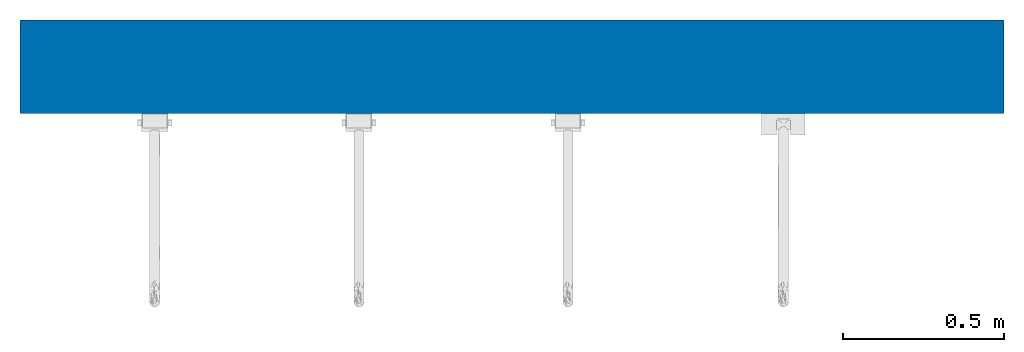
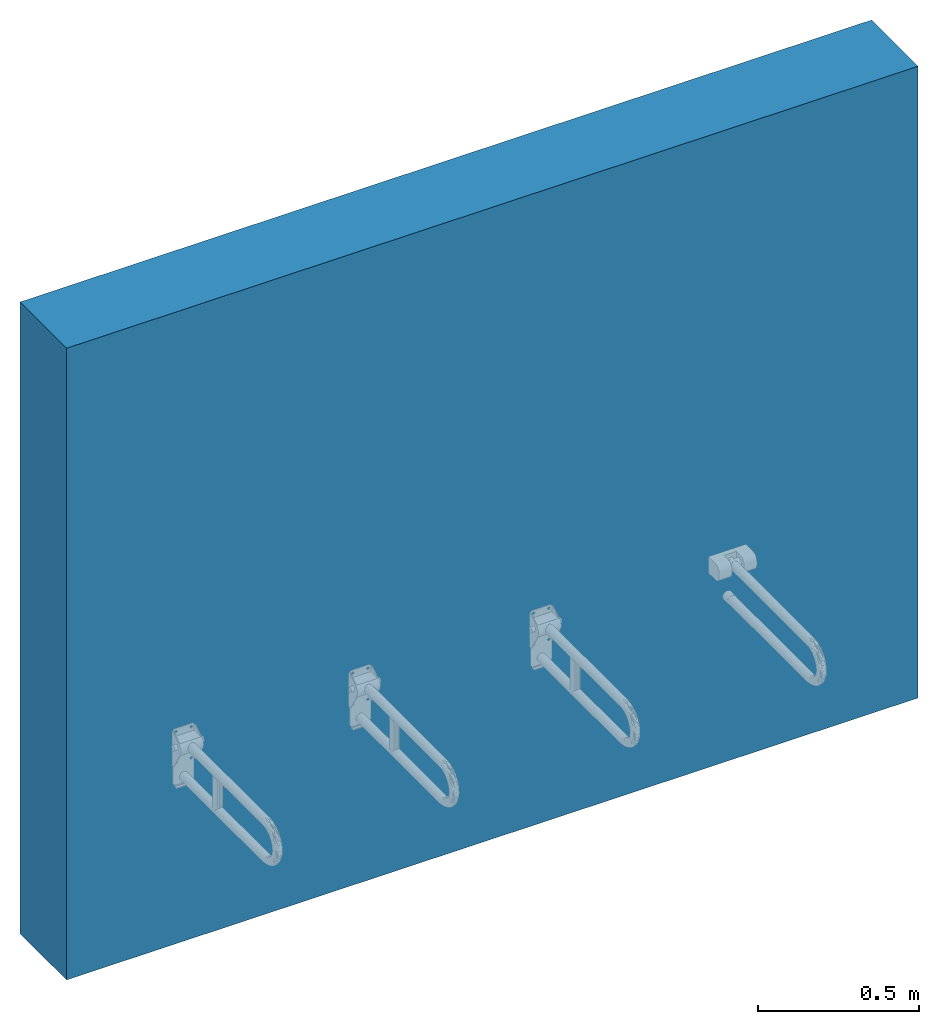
# One storey, incomplete: 1 wall.
"""IFC2X3 building model written with IfcOpenShell, lengths in millimetres."""

import ifcopenshell
import ifcopenshell.guid

model = None  # the IFC model being written
_history = None  # IfcOwnerHistory: only IFC2X3 demands one
_inside = {}  # id of a spatial element -> (the spatial element, [elements in it])
_under = {}  # id of a project, library or spatial element -> (it, [spatial elements below it])
_declared = {}  # id of a project -> (the project, [libraries it declares])
_typed = {}  # id of a type object -> (the type object, [elements of that type])
_made_of = {}  # id of a material, layer set ... -> (it, [elements and type objects made of it])


def new_model(schema):
    """Start an empty IFC model of exactly this schema.

    Asked for "IFC4X3", IfcOpenShell would pick the latest addendum, in which some entities
    have other attributes; the version numbers below select the first issue.
    IFC2X3 requires an IfcOwnerHistory on every rooted entity: one is made here for all.
    """
    global model, _history
    if schema == "IFC4X3":
        model = ifcopenshell.file(schema_version=(4, 3, 0, 0))
    else:
        model = ifcopenshell.file(schema=schema)
    _inside.clear()
    _under.clear()
    _declared.clear()
    _typed.clear()
    _made_of.clear()
    _history = None
    if model.schema == "IFC2X3":
        org = make("IfcOrganization", Name="unknown")
        user = make(
            "IfcPersonAndOrganization",
            ThePerson=make("IfcPerson", FamilyName="unknown"),
            TheOrganization=org,
        )
        app = make(
            "IfcApplication",
            ApplicationDeveloper=org,
            Version="unknown",
            ApplicationFullName="unknown",
            ApplicationIdentifier="unknown",
        )
        _history = make(
            "IfcOwnerHistory",
            OwningUser=user,
            OwningApplication=app,
            ChangeAction="ADDED",
            CreationDate=0,
        )
    return model


def make(cls, **values):
    """One entity of the class cls with the attributes given. An attribute that is None is left unset."""
    return model.create_entity(
        cls, **{name: value for name, value in values.items() if value is not None}
    )


def entity(cls, *values):
    """Any entity or typed value of the class cls, its attributes in the order of the schema. None: left unset."""
    e = model.create_entity(cls)
    for i, value in enumerate(values):
        if value is not None:
            e[i] = value
    return e


def rooted(cls, **values):
    """An entity with a GlobalId (a new one), such as an element, a storey or a relation."""
    return make(cls, GlobalId=ifcopenshell.guid.new(), OwnerHistory=_history, **values)


def si_unit(unit_type, name, prefix=None):
    """IfcSIUnit, for example si_unit("LENGTHUNIT", "METRE", prefix="MILLI")."""
    return make("IfcSIUnit", UnitType=unit_type, Prefix=prefix, Name=name)


def converted_unit(unit_type, name, factor, base, dimensions=None, offset=None):
    """IfcConversionBasedUnit, such as the inch: factor (a typed value) times the base unit."""
    return make(
        "IfcConversionBasedUnit"
        if offset is None
        else "IfcConversionBasedUnitWithOffset",
        ConversionOffset=offset,
        Dimensions=None
        if dimensions is None
        else entity("IfcDimensionalExponents", *dimensions),
        UnitType=unit_type,
        Name=name,
        ConversionFactor=make(
            "IfcMeasureWithUnit", ValueComponent=factor, UnitComponent=base
        ),
    )


def derived_unit(unit_type, elements):
    """IfcDerivedUnit: a product of units, each with its exponent."""
    return make(
        "IfcDerivedUnit",
        Elements=[
            make("IfcDerivedUnitElement", Unit=unit, Exponent=power)
            for unit, power in elements
        ],
        UnitType=unit_type,
    )


def assignment(units):
    """IfcUnitAssignment: the units of a project."""
    return None if units is None else make("IfcUnitAssignment", Units=units)


def point(xyz):
    """IfcCartesianPoint."""
    return None if xyz is None else make("IfcCartesianPoint", Coordinates=xyz)


def direction(xyz):
    """IfcDirection."""
    return None if xyz is None else make("IfcDirection", DirectionRatios=xyz)


def frame(location, z_axis=None, x_axis=None):
    """IfcAxis2Placement3D, a coordinate frame: its origin and axes. An axis left out is left unset."""
    return make(
        "IfcAxis2Placement3D",
        Location=point(location),
        Axis=direction(z_axis),
        RefDirection=direction(x_axis),
    )


def frame_2d(location, x_axis=None):
    """IfcAxis2Placement2D, a coordinate frame in the plane: its origin and x axis."""
    return make(
        "IfcAxis2Placement2D", Location=point(location), RefDirection=direction(x_axis)
    )


def origin():
    """The frame at (0, 0, 0) with its axes left unset."""
    return frame((0.0, 0.0, 0.0))


def place(relative_to, where):
    """IfcLocalPlacement: puts the frame where relative to a parent placement (None: the world)."""
    return make(
        "IfcLocalPlacement", PlacementRelTo=relative_to, RelativePlacement=where
    )


def context(
    kind, dimensions, precision=None, world=None, true_north=None, identifier=None
):
    """IfcGeometricRepresentationContext, for example the 3D "Model" context."""
    return make(
        "IfcGeometricRepresentationContext",
        ContextIdentifier=identifier,
        ContextType=kind,
        CoordinateSpaceDimension=dimensions,
        Precision=precision,
        WorldCoordinateSystem=world,
        TrueNorth=true_north,
    )


def subcontext(parent, identifier, kind, view, scale=None):
    """IfcGeometricRepresentationSubContext, for example "Body" below "Model"."""
    return make(
        "IfcGeometricRepresentationSubContext",
        ContextIdentifier=identifier,
        ContextType=kind,
        ParentContext=parent,
        TargetScale=scale,
        TargetView=view,
    )


def project(units=None, contexts=None):
    """IfcProject with its units and contexts."""
    return rooted(
        "IfcProject",
        Name="project",
        RepresentationContexts=contexts,
        UnitsInContext=assignment(units),
    )


def spatial(cls, under=None, at=None, **own):
    """A site, building, storey or space (cls), placed at a placement, below another one or the project."""
    s = rooted(cls, ObjectPlacement=at, **own)
    if under is not None:
        _under.setdefault(under.id(), (under, []))[1].append(s)
    return s


def profile(cls, at=None, kind="AREA", **sizes):
    """A parametric profile (cls). Its sizes go by their IFC names, for example OverallWidth=200.0."""
    return make(cls, ProfileType=kind, Position=at, **sizes)


def rectangle(**sizes):
    """IfcRectangleProfileDef."""
    return profile("IfcRectangleProfileDef", **sizes)


def extrude(swept, where, along, depth):
    """IfcExtrudedAreaSolid: the profile swept, set in the frame where, extruded along a direction by depth."""
    return make(
        "IfcExtrudedAreaSolid",
        SweptArea=swept,
        Position=where,
        ExtrudedDirection=direction(along),
        Depth=depth,
    )


def shape(context_of_items, identifier, shape_type, items):
    """IfcShapeRepresentation: the items that make up one representation, for example the "Body"."""
    return make(
        "IfcShapeRepresentation",
        ContextOfItems=context_of_items,
        RepresentationIdentifier=identifier,
        RepresentationType=shape_type,
        Items=items,
    )


def material(Name=None, Category=None):
    """IfcMaterial."""
    return make("IfcMaterial", Name=Name, Category=Category)


def layer(
    of_material, thickness, ventilated=None, Name=None, Category=None, Priority=None
):
    """IfcMaterialLayer: one layer of a wall or slab, of a material (None: an air gap)."""
    return make(
        "IfcMaterialLayer",
        Material=of_material,
        LayerThickness=thickness,
        IsVentilated=ventilated,
        Name=Name,
        Category=Category,
        Priority=Priority,
    )


def layer_set(layers, Name=None):
    """IfcMaterialLayerSet."""
    return make("IfcMaterialLayerSet", MaterialLayers=layers, LayerSetName=Name)


def layer_usage(for_layer_set, set_direction, sense, offset, extent=None):
    """IfcMaterialLayerSetUsage: how a layer set lies in its element."""
    return make(
        "IfcMaterialLayerSetUsage",
        ForLayerSet=for_layer_set,
        LayerSetDirection=set_direction,
        DirectionSense=sense,
        OffsetFromReferenceLine=offset,
        ReferenceExtent=extent,
    )


def made_of(thing, what):
    """Note that an element or type object is made of a material, layer set ...; save() writes the relation."""
    if what is not None:
        _made_of.setdefault(what.id(), (what, []))[1].append(thing)
    return thing


def type_object(cls, material=None, **own):
    """A type object (cls), such as IfcWallType, which elements share."""
    return made_of(rooted(cls, **own), material)


def element(
    cls,
    number,
    at=None,
    inside=None,
    cuts=None,
    type_object=None,
    material=None,
    context=None,
    identifier="Body",
    shape_type=None,
    held_by="IfcProductDefinitionShape",
    body=None,
    shapes=None,
    **own,
):
    """One element of the class cls, such as IfcWall. Its Tag is "e" and its number.

    at: its placement. inside: the storey or other place that contains it. cuts: it is an
    opening in that element (IfcRelVoidsElement). A single representation is given by context,
    identifier, shape_type and body (its items); several are given by shapes. held_by: the class
    of the entity that holds the representations. save() writes the other relations.
    """
    e = rooted(cls, Tag="e%d" % number, ObjectPlacement=at, **own)
    if body is not None:
        shapes = [shape(context, identifier, shape_type, body)]
    if shapes is not None:
        e.Representation = make(held_by, Representations=shapes)
    if inside is not None:
        _inside.setdefault(inside.id(), (inside, []))[1].append(e)
    if cuts is not None:
        rooted(
            "IfcRelVoidsElement", RelatingBuildingElement=cuts, RelatedOpeningElement=e
        )
    if type_object is not None:
        _typed.setdefault(type_object.id(), (type_object, []))[1].append(e)
    return made_of(e, material)


def aggregate(whole, parts):
    """IfcRelAggregates: a whole, such as a stair, and the parts it consists of."""
    return rooted("IfcRelAggregates", RelatingObject=whole, RelatedObjects=parts)


def save(model, path):
    """Write the relations noted so far, then the file.

    IfcRelAggregates (storeys below a building ...), IfcRelContainedInSpatialStructure (elements
    in a storey), IfcRelDefinesByType, IfcRelAssociatesMaterial and IfcRelDeclares: one each for
    every whole, place, type object, material and project.
    """
    for whole, parts in _under.values():
        aggregate(whole, parts)
    for where, things in _inside.values():
        rooted(
            "IfcRelContainedInSpatialStructure",
            RelatedElements=things,
            RelatingStructure=where,
        )
    for kind, things in _typed.values():
        rooted("IfcRelDefinesByType", RelatedObjects=things, RelatingType=kind)
    for what, things in _made_of.values():
        rooted("IfcRelAssociatesMaterial", RelatedObjects=things, RelatingMaterial=what)
    for by, libraries in _declared.values():
        rooted("IfcRelDeclares", RelatingContext=by, RelatedDefinitions=libraries)
    model.write(path)


model = new_model("IFC2X3")

# Units and contexts
model_context = context("Model", 3, precision=0.01, world=origin(), true_north=direction((6.12303176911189e-17, 1.0)))
context_of_model = context(None, 3, precision=0.01, world=origin(), true_north=direction((6.12303176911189e-17, 1.0)))
body_context = subcontext(model_context, "Body", "Model", "MODEL_VIEW")
ifc_project = project(units=[si_unit("LENGTHUNIT", "METRE", prefix="MILLI"), si_unit("AREAUNIT", "SQUARE_METRE"), si_unit("VOLUMEUNIT", "CUBIC_METRE"), converted_unit("PLANEANGLEUNIT", "DEGREE", entity("IfcRatioMeasure", 0.0174532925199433), si_unit("PLANEANGLEUNIT", "RADIAN"), dimensions=[0, 0, 0, 0, 0, 0, 0]), si_unit("MASSUNIT", "GRAM", prefix="KILO"), si_unit("TIMEUNIT", "SECOND"), si_unit("FREQUENCYUNIT", "HERTZ"), si_unit("THERMODYNAMICTEMPERATUREUNIT", "DEGREE_CELSIUS"), derived_unit("THERMALTRANSMITTANCEUNIT", [(si_unit("MASSUNIT", "GRAM", prefix="KILO"), 1), (si_unit("THERMODYNAMICTEMPERATUREUNIT", "KELVIN"), -1), (si_unit("TIMEUNIT", "SECOND"), -3)]), derived_unit("VOLUMETRICFLOWRATEUNIT", [(si_unit("LENGTHUNIT", "METRE"), 3), (si_unit("TIMEUNIT", "SECOND"), -1)]), si_unit("ELECTRICCURRENTUNIT", "AMPERE"), si_unit("ELECTRICVOLTAGEUNIT", "VOLT"), si_unit("POWERUNIT", "WATT"), si_unit("FORCEUNIT", "NEWTON", prefix="KILO"), si_unit("ILLUMINANCEUNIT", "LUX"), si_unit("LUMINOUSFLUXUNIT", "LUMEN"), si_unit("LUMINOUSINTENSITYUNIT", "CANDELA"), si_unit("PRESSUREUNIT", "PASCAL")], contexts=[model_context, context_of_model])

# Site, building, storey
site_placement = place(None, origin())
site = spatial("IfcSite", under=ifc_project, at=site_placement, Name="Default", CompositionType="ELEMENT")
building_placement = place(site_placement, origin())
building = spatial("IfcBuilding", under=site, at=building_placement, CompositionType="ELEMENT")
storey_placement = place(building_placement, origin())
storey = spatial("IfcBuildingStorey", under=building, at=storey_placement, Name="Level 0", CompositionType="ELEMENT", Elevation=0.0)

# Wall
ifc_material_1 = material(Name="Brick, Common")
ifc_layer_1 = layer(ifc_material_1, 102.5)
ifc_material_2 = material(Name="Fiberglass Batt")
ifc_layer_2 = layer(ifc_material_2, 75.0)
ifc_material_3 = material(Name="Concrete Masonry Units _Low Density")
ifc_layer_3 = layer(ifc_material_3, 100.0)
ifc_material_4 = material(Name="Plaster")
ifc_layer_4 = layer(ifc_material_4, 12.5)
ifc_layer_set = layer_set([ifc_layer_1, ifc_layer_2, ifc_layer_3, ifc_layer_4], Name="Basic Wall:Wall-Ext_102Bwk-75Ins-100LBlk-12P")
ifc_layer_usage = layer_usage(ifc_layer_set, "AXIS2", "NEGATIVE", 145.0)
wall_type = type_object("IfcWallType", Name="Basic Wall:Wall-Ext_102Bwk-75Ins-100LBlk-12P", PredefinedType="STANDARD", material=ifc_layer_set)
wall_placement = place(storey_placement, frame((-2426.5489409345, -79.6235727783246, 0.0)))
element("IfcWallStandardCase", 1, at=wall_placement, inside=storey, type_object=wall_type, material=ifc_layer_usage, Name="Basic Wall:Wall-Ext_102Bwk-75Ins-100LBlk-12P", ObjectType="Basic Wall:Wall-Ext_102Bwk-75Ins-100LBlk-12P", context=body_context, shape_type="SweptSolid", body=[
    extrude(rectangle(XDim=3060.0, YDim=290.0, at=frame_2d((1530.0, 0.0), x_axis=(-1.0, 0.0))), origin(), (0.0, 0.0, 1.0), 2400.0),
])

save(model, "model.ifc")
